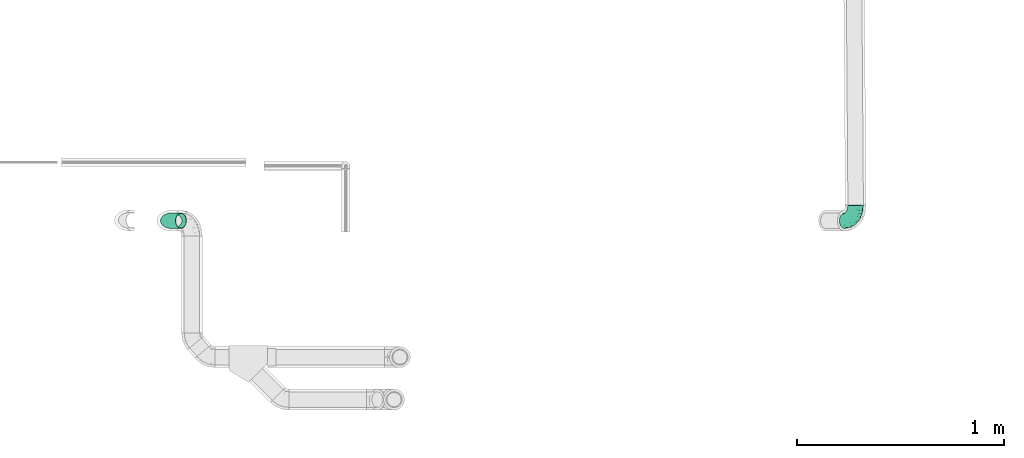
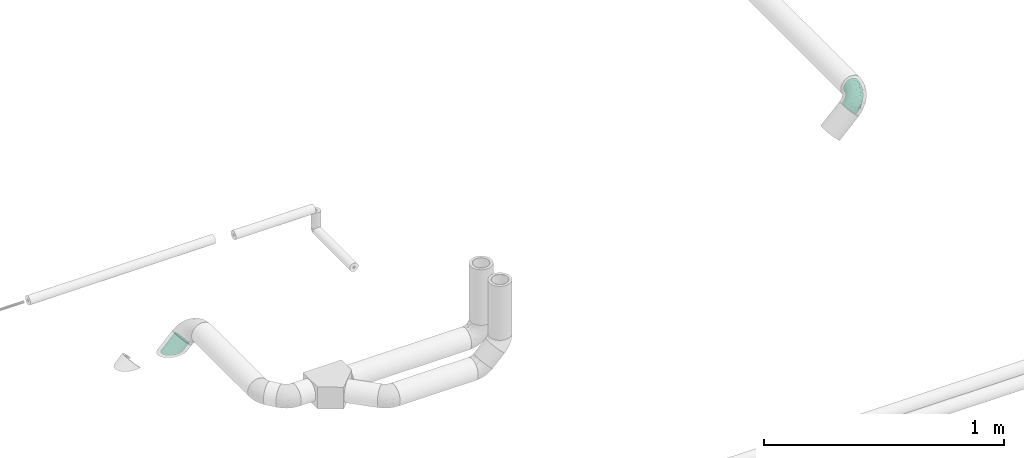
# One storey, part 144 of 156: 1 flow fitting, 1 flow segment.
"""IFC2X3 building model written with IfcOpenShell, lengths in millimetres."""

from ifc_helpers import new_model, entity, si_unit, converted_unit, derived_unit, direction, frame, origin_with_axes, place, context, subcontext, project, spatial, open_shell, faceted_brep, surface_model, source, transform, mapped, type_object, element, save


model = new_model("IFC2X3")

# Units and contexts
model_context = context("Model", 3, precision=0.01, world=frame((0.0, 4.29681676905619e-09, 0.0)), true_north=direction((4.01073788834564e-13, 1.0)))
plan_context = context("Plan", 3, precision=0.01, world=frame((0.0, 4.29681676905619e-09, 0.0)), true_north=direction((4.01073788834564e-13, 1.0)))
body_context = subcontext(model_context, "Body", "Model", "MODEL_VIEW")
ifc_project = project(units=[converted_unit("PLANEANGLEUNIT", "DEGREE", entity("IfcPositiveLengthMeasure", 0.0174532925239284), si_unit("PLANEANGLEUNIT", "RADIAN"), dimensions=[0, 0, 0, 0, 0, 0, 0]), si_unit("AREAUNIT", "SQUARE_METRE"), si_unit("LENGTHUNIT", "METRE", prefix="MILLI"), si_unit("MASSUNIT", "GRAM", prefix="KILO"), si_unit("POWERUNIT", "WATT"), si_unit("PRESSUREUNIT", "PASCAL", prefix="KILO"), si_unit("FORCEUNIT", "NEWTON", prefix="KILO"), si_unit("ELECTRICVOLTAGEUNIT", "VOLT"), si_unit("ELECTRICCURRENTUNIT", "AMPERE"), si_unit("THERMODYNAMICTEMPERATUREUNIT", "DEGREE_CELSIUS"), si_unit("TIMEUNIT", "SECOND"), si_unit("VOLUMEUNIT", "CUBIC_METRE"), derived_unit("LINEARVELOCITYUNIT", [(si_unit("LENGTHUNIT", "METRE"), 1), (si_unit("TIMEUNIT", "SECOND"), -1)]), derived_unit("VOLUMETRICFLOWRATEUNIT", [(si_unit("VOLUMEUNIT", "CUBIC_METRE"), 1), (si_unit("TIMEUNIT", "SECOND"), -1)]), derived_unit("THERMALTRANSMITTANCEUNIT", [(si_unit("POWERUNIT", "WATT"), 1), (si_unit("THERMODYNAMICTEMPERATUREUNIT", "KELVIN"), -1), (si_unit("AREAUNIT", "SQUARE_METRE"), -1)]), derived_unit("SOUNDPRESSUREUNIT", [(si_unit("PRESSUREUNIT", "PASCAL"), 1)])], contexts=[model_context, plan_context])

# Site, building, storey
site_placement = place(None, frame((0.0, -4.29681676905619e-09, 0.0), z_axis=(0.0, 0.0, 1.0), x_axis=(1.0, 0.0, 0.0)))
site = spatial("IfcSite", under=ifc_project, at=site_placement, CompositionType="ELEMENT")
building_placement = place(site_placement, frame((0.0, 4.29681676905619e-09, 0.0), z_axis=(0.0, 0.0, 1.0), x_axis=(1.0, 0.0, 0.0)))
building = spatial("IfcBuilding", under=site, at=building_placement, Name="mc-building", CompositionType="ELEMENT")
storey_placement = place(building_placement, frame((0.0, 0.0, 205200.0), z_axis=(0.0, 0.0, 1.0), x_axis=(1.0, 0.0, 0.0)))
storey = spatial("IfcBuildingStorey", under=building, at=storey_placement, Name="Nivå D + 1,2 m", CompositionType="ELEMENT", Elevation=205200.0)

# Flow fitting
pipe_fitting_type = type_object("IfcPipeFittingType", Name="magi_pipe_elbow_short_001", PredefinedType="BEND")
shared_shape = source(origin_with_axes(), body_context, "Body", "SurfaceModel", [
    surface_model("IfcShellBasedSurfaceModel", [(-74.75503, 18.75, -32.47595), (-74.75503, 9.70571, -36.22222), (-74.75503, 0.0, -37.5), (-74.75503, 26.5165, -26.5165), (-74.75503, 36.22222, -9.70571), (-74.75503, 32.47595, -18.75), (-74.75503, -26.5165, -26.5165), (-74.75503, -32.47595, -18.75), (-74.75503, -18.75, -32.47595), (-74.75503, -9.70571, -36.22222), (-74.75503, -36.22222, -9.70571), (-74.75503, -37.5, 0.0), (-74.75503, -36.22222, 9.70571), (-74.75503, 36.22222, 9.70571), (-74.75503, 37.5, 0.0), (-74.75503, 26.5165, 26.5165), (-74.75503, 32.47595, 18.75), (-74.75503, 9.70571, 36.22222), (-74.75503, 18.75, 32.47595), (-74.75503, 0.0, 37.5), (-74.75503, -32.47595, 18.75), (-74.75503, -26.5165, 26.5165), (-74.75503, -18.75, 32.47595), (-74.75503, -9.70571, 36.22222), (-26.2718, 74.84138, -26.5165), (0.24457, 74.75463, -37.5), (-9.4611, 74.78638, -36.22222), (-18.50533, 74.81597, -32.47595), (36.46659, 74.63613, -9.70571), (-32.23121, 74.86088, -18.75), (26.76093, 74.66788, -26.5165), (36.46659, 74.63613, 9.70571), (18.99447, 74.69329, -32.47595), (9.95023, 74.72288, -36.22222), (32.72035, 74.64838, -18.75), (37.74437, 74.63195, 0.0), (-35.97746, 74.87314, -9.70571), (-37.25523, 74.87732, 0.0), (-35.97746, 74.87314, 9.70571), (-26.2718, 74.84138, 26.5165), (-32.23121, 74.86088, 18.75), (-18.50533, 74.81597, 32.47595), (-9.4611, 74.78638, 36.22222), (26.76093, 74.66788, 26.5165), (32.72035, 74.64838, 18.75), (18.99447, 74.69329, 32.47595), (0.24457, 74.75463, 37.5), (9.95023, 74.72288, 36.22222), (-50.42254, -32.88814, 11.79115), (-54.75902, -29.12955, 21.05373), (-40.06064, -32.01658, 0.0), (-56.31067, -34.58488, 0.0), (-9.46276, -13.04664, 14.42571), (-2.5303, -10.16554, 7.85878), (2.31043, -2.318, 15.45807), (-57.08506, -4.96839, 36.86023), (-52.29831, 5.74733, 37.43557), (12.9489, 9.01156, 14.08002), (22.97553, 30.15064, 18.65586), (8.87105, 13.39165, 23.93306), (-37.16482, -0.35532, 36.35124), (-54.61015, -14.14482, 33.72731), (-28.87956, -8.84098, 31.35399), (-47.84214, -21.41545, 27.86004), (-33.42472, -28.77363, 7.69876), (-24.40449, -24.05873, 0.0), (-6.58532, 6.6069, 30.67927), (-13.4206, -8.82719, 23.93306), (-36.45869, 59.74015, 16.29345), (-13.78768, 64.51976, 35.12309), (-4.95809, 55.88636, 37.40743), (-57.57076, 14.70977, 35.42242), (-9.66185, 24.95339, 36.82012), (-18.46604, 6.86823, 35.03315), (-3.66507, 20.1595, 34.46255), (-64.67653, 22.70802, 30.55123), (-12.90945, 36.76647, 37.42999), (-27.6276, 27.71813, 36.58295), (-22.2159, 16.33007, 37.31142), (-59.14423, 39.90093, 8.22929), (-59.63034, 36.65076, 16.29215), (-46.36443, 46.51636, 14.01207), (-58.39768, 31.25797, 24.60453), (21.57185, 47.77182, 27.86004), (-38.6698, 49.65676, 21.24075), (-31.13467, 58.25564, 24.63137), (14.3234, 54.56358, 33.72731), (29.30854, 54.66342, 21.05373), (33.05293, 50.31467, 11.79115), (-8.74835, -16.10087, 0.0), (-18.06718, -20.69273, 9.70186), (5.15513, 57.0685, 36.86023), (-41.02102, 16.03421, 36.82816), (-36.63875, 9.17816, 37.48497), (24.13844, 24.32565, 0.0), (28.88283, 33.33041, 7.69876), (20.75173, 17.99938, 9.70186), (34.76892, 56.19722, 0.0), (-39.71975, 25.38814, 34.68105), (-30.22565, -22.87677, 18.65586), (-27.02368, 48.33516, 31.51384), (-22.7057, 62.72397, 30.70877), (-39.27194, 60.3899, 8.04548), (-46.8306, 49.10431, 6.5901), (17.391, 29.93433, 25.41303), (8.93541, 28.85048, 31.35399), (-42.32005, 56.17921, 0.0), (-34.57816, 39.49641, 30.8055), (-51.46432, 25.43731, 31.57037), (-29.84223, -16.41797, 26.17381), (-21.25951, 38.72858, 36.03844), (-29.73488, 36.20831, 34.11367), (-16.04191, 50.68016, 35.70942), (-39.38174, 41.78898, 26.55349), (-47.95246, 40.28171, 20.89443), (0.47691, 37.16346, 36.35124), (-2.5099, 2.51813, 25.66918), (10.33866, 2.57222, 7.49194), (32.14747, 39.95568, 0.0), (16.1294, 8.69563, 0.0), (-56.04046, 42.50362, 0.0), (3.69053, -3.70262, 0.0), (-58.15347, 31.32509, -24.63137), (-29.99106, -17.29297, -25.41303), (-28.87956, -8.84098, -31.35399), (-13.4206, -8.82719, -23.93306), (-55.86984, 5.1409, -37.40743), (0.47691, 37.16346, -36.35124), (14.3234, 54.56358, -33.72731), (8.93541, 28.85048, -31.35399), (-64.47431, 13.99869, -35.12309), (-22.4963, 64.75048, -30.55123), (-31.06675, 58.49963, -24.60453), (-60.2611, 39.4693, -8.04548), (8.87105, 13.39165, -23.93306), (16.51551, 29.78836, -26.17381), (-46.36443, 46.51636, -14.01207), (-59.62056, 36.65394, -16.29345), (28.88283, 33.33041, -7.69876), (22.97553, 30.15064, -18.65585), (33.05293, 50.31467, -11.79115), (-36.11083, 29.85317, -34.11367), (-38.65882, 21.3861, -36.03844), (-48.24649, 27.18167, -31.51384), (-6.58532, 6.6069, -30.67926), (-24.92165, 9.74343, -36.82012), (-6.80778, 18.48841, -35.03315), (-20.1474, 3.731, -34.46255), (-62.64935, 22.91078, -30.70877), (-50.42254, -32.88814, -11.79115), (-41.65992, 39.51825, -26.55349), (-54.75902, -29.12955, -21.05373), (-33.42472, -28.77363, -7.69876), (-30.22565, -22.87677, -18.65585), (-18.06718, -20.69273, -9.70186), (-49.52998, 38.83205, -21.24075), (-54.61015, -14.14482, -33.72731), (-57.08506, -4.96839, -36.86023), (-50.62741, 16.20763, -35.70942), (-36.72404, 13.02966, -37.42999), (-14.52135, 57.61858, -35.42242), (-5.57621, 52.31683, -37.43557), (-48.95084, 46.991, -6.5901), (-25.25806, 39.8026, -34.68105), (-15.89992, 41.07326, -36.82816), (-39.70721, 59.27445, -8.22929), (-36.45548, 59.74992, -16.29215), (5.15513, 57.0685, -36.86023), (-2.5303, -10.16554, -7.85878), (29.30854, 54.66342, -21.05373), (-47.84214, -21.41545, -27.86004), (-27.6276, 27.71813, -36.58295), (-16.2573, 22.2692, -37.31142), (21.57185, 47.77182, -27.86004), (20.75173, 17.99938, -9.70186), (-39.38308, 34.70718, -30.8055), (-25.2688, 51.54726, -31.57037), (-9.05824, 36.66858, -37.48497), (-40.12462, 48.08398, -20.89443), (-37.16482, -0.35532, -36.35124), (-9.46276, -13.04664, -14.42571), (-0.40833, 0.40967, -22.07441), (2.31043, -2.318, -15.45808), (13.2791, 10.09127, -14.98424), (10.37808, 2.8742, -8.26184)], [open_shell([[[0, 1, 2]], [[3, 0, 2]], [[4, 5, 3]], [[6, 3, 2]], [[4, 3, 7]], [[8, 6, 9]], [[6, 2, 9]], [[10, 11, 7]], [[3, 6, 7]], [[7, 11, 12]], [[12, 4, 7]], [[13, 14, 15]], [[16, 13, 15]], [[17, 18, 15]], [[14, 17, 15]], [[19, 17, 14]], [[20, 21, 12]], [[22, 12, 21]], [[23, 19, 22]], [[12, 22, 19]], [[19, 14, 12]], [[4, 12, 14]], [[24, 25, 26]], [[24, 26, 27]], [[28, 24, 29]], [[24, 30, 25]], [[29, 31, 28]], [[25, 32, 33]], [[25, 30, 32]], [[30, 28, 34]], [[30, 24, 28]], [[31, 35, 28]], [[29, 36, 37]], [[29, 38, 39]], [[39, 38, 40]], [[39, 41, 42]], [[29, 39, 31]], [[31, 39, 42]], [[31, 43, 44]], [[43, 31, 45]], [[45, 46, 47]], [[45, 31, 42]], [[42, 46, 45]], [[38, 29, 37]], [[48, 49, 20]], [[50, 48, 51]], [[52, 53, 54]], [[12, 48, 20]], [[12, 51, 48]], [[19, 55, 56]], [[20, 49, 21]], [[57, 58, 59]], [[60, 61, 62]], [[63, 22, 21]], [[63, 61, 22]], [[64, 50, 65]], [[66, 62, 67]], [[68, 40, 38]], [[42, 69, 70]], [[17, 71, 18]], [[72, 73, 74]], [[18, 75, 15]], [[23, 55, 19]], [[76, 77, 78]], [[79, 80, 81]], [[16, 82, 80]], [[83, 43, 45]], [[14, 13, 79]], [[13, 16, 80]], [[68, 84, 85]], [[82, 16, 15]], [[19, 56, 17]], [[45, 86, 83]], [[15, 75, 82]], [[87, 58, 88]], [[85, 40, 68]], [[89, 90, 65]], [[46, 91, 47]], [[65, 90, 64]], [[46, 42, 70]], [[92, 93, 78]], [[88, 31, 44]], [[44, 43, 87]], [[87, 88, 44]], [[94, 95, 96]], [[88, 97, 31]], [[98, 71, 92]], [[49, 99, 63]], [[85, 100, 101]], [[81, 102, 103]], [[104, 105, 59]], [[106, 102, 37]], [[98, 107, 108]], [[102, 81, 68]], [[86, 45, 47]], [[85, 39, 40]], [[67, 62, 109]], [[110, 100, 111]], [[22, 61, 23]], [[101, 41, 39]], [[69, 42, 41]], [[112, 76, 70]], [[83, 86, 105]], [[96, 95, 58]], [[100, 85, 113]], [[71, 17, 56]], [[108, 113, 82]], [[80, 114, 81]], [[112, 110, 76]], [[91, 70, 115]], [[62, 61, 63]], [[55, 61, 60]], [[109, 99, 67]], [[73, 62, 66]], [[91, 86, 47]], [[105, 86, 115]], [[74, 105, 115]], [[105, 66, 59]], [[58, 104, 59]], [[48, 64, 99]], [[99, 49, 48]], [[63, 21, 49]], [[43, 83, 87]], [[58, 87, 83]], [[92, 71, 56]], [[75, 71, 108]], [[102, 68, 38]], [[114, 84, 81]], [[98, 111, 107]], [[112, 69, 101]], [[114, 82, 113]], [[81, 103, 79]], [[92, 78, 77]], [[115, 70, 76]], [[73, 78, 60]], [[76, 78, 72]], [[52, 99, 90]], [[116, 54, 59]], [[116, 59, 66]], [[57, 54, 117]], [[70, 91, 46]], [[86, 91, 115]], [[61, 55, 23]], [[56, 55, 60]], [[12, 11, 51]], [[97, 88, 118]], [[97, 35, 31]], [[53, 90, 89]], [[90, 53, 52]], [[94, 96, 119]], [[88, 95, 118]], [[117, 54, 53]], [[92, 56, 93]], [[98, 92, 77]], [[111, 98, 77]], [[71, 98, 108]], [[110, 111, 77]], [[107, 111, 100]], [[37, 102, 38]], [[102, 106, 103]], [[106, 120, 103]], [[103, 120, 79]], [[14, 79, 120]], [[13, 80, 79]], [[56, 60, 93]], [[60, 78, 93]], [[117, 121, 119]], [[121, 117, 53]], [[53, 89, 121]], [[119, 96, 117]], [[117, 96, 57]], [[76, 110, 77]], [[100, 110, 112]], [[82, 114, 80]], [[84, 114, 113]], [[85, 84, 113]], [[81, 84, 68]], [[54, 67, 52]], [[99, 52, 67]], [[85, 101, 39]], [[112, 101, 100]], [[100, 113, 107]], [[108, 107, 113]], [[62, 73, 60]], [[74, 73, 66]], [[105, 74, 66]], [[72, 74, 115]], [[76, 72, 115]], [[73, 72, 78]], [[99, 64, 90]], [[50, 64, 48]], [[118, 95, 94]], [[58, 95, 88]], [[58, 57, 96]], [[59, 54, 57]], [[71, 75, 18]], [[82, 75, 108]], [[101, 69, 41]], [[70, 69, 112]], [[62, 63, 109]], [[99, 109, 63]], [[58, 83, 104]], [[105, 104, 83]], [[66, 67, 116]], [[54, 116, 67]], [[5, 122, 3]], [[123, 124, 125]], [[2, 1, 126]], [[127, 128, 129]], [[1, 0, 130]], [[24, 131, 132]], [[120, 133, 14]], [[134, 129, 135]], [[133, 136, 137]], [[138, 139, 140]], [[141, 142, 143]], [[129, 134, 144]], [[145, 146, 147]], [[148, 0, 3]], [[7, 149, 10]], [[32, 128, 33]], [[149, 51, 10]], [[143, 122, 150]], [[149, 7, 151]], [[122, 5, 137]], [[152, 153, 154]], [[137, 155, 122]], [[156, 8, 9]], [[28, 35, 97]], [[157, 9, 2]], [[153, 149, 151]], [[158, 159, 126]], [[160, 26, 161]], [[162, 136, 133]], [[163, 160, 164]], [[37, 36, 165]], [[122, 143, 148]], [[166, 36, 29]], [[25, 167, 161]], [[89, 154, 168]], [[24, 27, 131]], [[160, 27, 26]], [[140, 169, 34]], [[25, 33, 167]], [[5, 4, 137]], [[170, 6, 8]], [[24, 132, 29]], [[159, 171, 172]], [[32, 173, 128]], [[156, 170, 8]], [[165, 166, 136]], [[25, 161, 26]], [[118, 94, 138]], [[34, 169, 30]], [[173, 32, 30]], [[140, 28, 97]], [[170, 156, 124]], [[140, 97, 118]], [[65, 152, 154]], [[119, 174, 94]], [[34, 28, 140]], [[163, 175, 176]], [[1, 130, 126]], [[169, 139, 173]], [[132, 166, 29]], [[164, 177, 172]], [[7, 6, 151]], [[176, 150, 132]], [[166, 178, 136]], [[158, 142, 159]], [[157, 126, 179]], [[157, 156, 9]], [[124, 156, 179]], [[147, 124, 179]], [[124, 144, 125]], [[129, 128, 173]], [[167, 128, 127]], [[135, 139, 134]], [[146, 129, 144]], [[180, 153, 125]], [[153, 123, 125]], [[6, 170, 151]], [[153, 151, 170]], [[139, 169, 140]], [[173, 30, 169]], [[164, 160, 161]], [[131, 160, 176]], [[133, 137, 4]], [[178, 155, 136]], [[163, 141, 175]], [[158, 130, 148]], [[178, 132, 150]], [[136, 162, 165]], [[164, 172, 171]], [[179, 126, 159]], [[146, 172, 127]], [[159, 172, 145]], [[181, 144, 134]], [[180, 182, 168]], [[183, 139, 174]], [[181, 182, 180]], [[126, 157, 2]], [[156, 157, 179]], [[128, 167, 33]], [[161, 167, 127]], [[51, 149, 50]], [[51, 11, 10]], [[65, 154, 89]], [[149, 152, 50]], [[154, 180, 168]], [[94, 174, 138]], [[182, 184, 168]], [[174, 184, 183]], [[164, 161, 177]], [[163, 164, 171]], [[141, 163, 171]], [[160, 163, 176]], [[142, 141, 171]], [[175, 141, 143]], [[14, 133, 4]], [[133, 120, 162]], [[120, 106, 162]], [[162, 106, 165]], [[37, 165, 106]], [[36, 166, 165]], [[161, 127, 177]], [[127, 172, 177]], [[182, 183, 184]], [[184, 121, 168]], [[174, 119, 184]], [[181, 183, 182]], [[121, 184, 119]], [[121, 89, 168]], [[139, 183, 134]], [[159, 142, 171]], [[143, 142, 158]], [[132, 178, 166]], [[155, 178, 150]], [[122, 155, 150]], [[136, 155, 137]], [[153, 180, 154]], [[181, 180, 125]], [[122, 148, 3]], [[158, 148, 143]], [[143, 150, 175]], [[176, 175, 150]], [[129, 146, 127]], [[147, 146, 144]], [[124, 147, 144]], [[145, 147, 179]], [[159, 145, 179]], [[146, 145, 172]], [[50, 152, 65]], [[153, 152, 149]], [[139, 138, 174]], [[118, 138, 140]], [[160, 131, 27]], [[132, 131, 176]], [[148, 130, 0]], [[126, 130, 158]], [[153, 170, 123]], [[124, 123, 170]], [[129, 173, 135]], [[139, 135, 173]], [[144, 181, 125]], [[183, 181, 134]]])]),
])
flow_fitting_placement = place(storey_placement, frame((341614.64679, 461168.61783, 4139.72772), z_axis=(-0.70617988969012, -0.0135969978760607, 0.707901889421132), x_axis=(0.707967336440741, -8.08001194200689e-09, 0.706245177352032)))
element("IfcFlowFitting", 1, at=flow_fitting_placement, inside=storey, type_object=pipe_fitting_type, Name="magi_pipe_elbow_short_001", context=body_context, shape_type="MappedRepresentation", body=[
    mapped(shared_shape, transform((0.0, 0.0, 0.0), scale=1.0)),
])

# Flow segment
pipe_segment_type = type_object("IfcPipeSegmentType", Name="MA", PredefinedType="RIGIDSEGMENT")
flow_segment_placement = place(storey_placement, frame((338273.03847, 461168.55164, 3964.54381), z_axis=(-0.707106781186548, 0.0, 0.707106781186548), x_axis=(0.707106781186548, 0.0, 0.707106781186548)))
element("IfcFlowSegment", 2, at=flow_segment_placement, inside=storey, type_object=pipe_segment_type, Name="MA", context=body_context, shape_type="Brep", body=[
    faceted_brep([(56.3071350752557, 34.9606752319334, -6.16451030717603), (50.1426247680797, 35.5, 0.0), (115.2, 35.5, 0.0), (115.2, 34.9606752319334, -6.16451030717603), (62.284339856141, 33.3590880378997, -12.1417150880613), (115.2, 33.3590880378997, -12.1417150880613), (67.8926247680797, 30.7439018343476, -17.75), (115.2, 30.7439018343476, -17.75), (72.9615849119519, 27.1945777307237, -22.8189601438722), (115.2, 27.1945777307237, -22.8189601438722), (77.3372024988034, 22.8189601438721, -27.1945777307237), (115.2, 22.8189601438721, -27.1945777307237), (80.8865266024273, 17.75, -30.7439018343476), (115.2, 17.75, -30.7439018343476), (83.5017128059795, 12.1417150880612, -33.3590880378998), (115.2, 12.1417150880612, -33.3590880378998), (85.1033000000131, 6.16451030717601, -34.9606752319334), (115.2, 6.16451030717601, -34.9606752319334), (85.6426247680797, -6.52124420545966e-15, -35.5), (115.2, -6.52124420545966e-15, -35.5), (85.1033000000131, -6.16451030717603, -34.9606752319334), (115.2, -6.16451030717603, -34.9606752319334), (83.5017128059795, -12.1417150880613, -33.3590880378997), (115.2, -12.1417150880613, -33.3590880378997), (80.8865266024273, -17.75, -30.7439018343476), (115.2, -17.75, -30.7439018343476), (77.3372024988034, -22.8189601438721, -27.1945777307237), (115.2, -22.8189601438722, -27.1945777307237), (72.9615849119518, -27.1945777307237, -22.8189601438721), (115.2, -27.1945777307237, -22.8189601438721), (67.8926247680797, -30.7439018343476, -17.75), (115.2, -30.7439018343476, -17.75), (62.284339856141, -33.3590880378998, -12.1417150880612), (115.2, -33.3590880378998, -12.1417150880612), (56.3071350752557, -34.9606752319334, -6.16451030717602), (115.2, -34.9606752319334, -6.16451030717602), (50.1426247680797, -35.5, 4.3474961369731e-15), (115.2, -35.5, 4.3474961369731e-15), (43.9781144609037, -34.9606752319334, 6.16451030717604), (115.2, -34.9606752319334, 6.16451030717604), (38.0009096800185, -33.3590880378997, 12.1417150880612), (115.2, -33.3590880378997, 12.1417150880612), (32.3926247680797, -30.7439018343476, 17.75), (115.2, -30.7439018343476, 17.75), (27.3236646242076, -27.1945777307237, 22.8189601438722), (115.2, -27.1945777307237, 22.8189601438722), (22.948047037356, -22.8189601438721, 27.1945777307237), (115.2, -22.8189601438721, 27.1945777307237), (19.3987229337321, -17.75, 30.7439018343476), (115.2, -17.75, 30.7439018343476), (16.78353673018, -12.1417150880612, 33.3590880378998), (115.2, -12.1417150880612, 33.3590880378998), (15.1819495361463, -6.16451030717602, 34.9606752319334), (115.2, -6.16451030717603, 34.9606752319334), (14.6426247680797, 2.17374806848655e-15, 35.5), (115.2, 2.17374806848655e-15, 35.5), (15.1819495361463, 6.16451030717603, 34.9606752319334), (115.2, 6.16451030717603, 34.9606752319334), (16.78353673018, 12.1417150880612, 33.3590880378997), (115.2, 12.1417150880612, 33.3590880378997), (19.3987229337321, 17.75, 30.7439018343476), (115.2, 17.75, 30.7439018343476), (22.948047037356, 22.8189601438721, 27.1945777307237), (115.2, 22.8189601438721, 27.1945777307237), (27.3236646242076, 27.1945777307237, 22.8189601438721), (115.2, 27.1945777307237, 22.8189601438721), (32.3926247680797, 30.7439018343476, 17.75), (115.2, 30.7439018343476, 17.75), (38.0009096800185, 33.3590880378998, 12.1417150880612), (115.2, 33.3590880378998, 12.1417150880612), (43.9781144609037, 34.9606752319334, 6.16451030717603), (115.2, 34.9606752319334, 6.16451030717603), (50.1426247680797, 37.5, 0.0), (56.6544314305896, 36.9302907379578, -6.51180666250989), (115.2, 36.9302907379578, -6.51180666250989), (115.2, 37.5, 0.0), (43.6308181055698, 36.9302907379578, 6.51180666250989), (115.2, 36.9302907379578, 6.51180666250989), (37.3168693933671, 35.2384732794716, 12.8257553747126), (115.2, 35.2384732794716, 12.8257553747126), (31.3926247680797, 32.4759526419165, 18.75), (115.2, 32.4759526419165, 18.75), (26.0380894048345, 28.7266666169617, 24.1045353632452), (115.2, 28.7266666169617, 24.1045353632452), (21.4159581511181, 24.1045353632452, 28.7266666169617), (115.2, 24.1045353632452, 28.7266666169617), (17.6666721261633, 18.75, 32.4759526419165), (115.2, 18.75, 32.4759526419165), (14.9041514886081, 12.8257553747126, 35.2384732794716), (115.2, 12.8257553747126, 35.2384732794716), (13.2123340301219, 6.51180666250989, 36.9302907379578), (115.2, 6.51180666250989, 36.9302907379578), (12.6426247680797, 2.29621274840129e-15, 37.5), (115.2, 2.29621274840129e-15, 37.5), (13.2123340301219, -6.51180666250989, 36.9302907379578), (115.2, -6.51180666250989, 36.9302907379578), (14.9041514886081, -12.8257553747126, 35.2384732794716), (115.2, -12.8257553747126, 35.2384732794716), (17.6666721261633, -18.75, 32.4759526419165), (115.2, -18.75, 32.4759526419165), (21.415958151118, -24.1045353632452, 28.7266666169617), (115.2, -24.1045353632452, 28.7266666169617), (26.0380894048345, -28.7266666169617, 24.1045353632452), (115.2, -28.7266666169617, 24.1045353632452), (31.3926247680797, -32.4759526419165, 18.75), (115.2, -32.4759526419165, 18.75), (37.3168693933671, -35.2384732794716, 12.8257553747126), (115.2, -35.2384732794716, 12.8257553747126), (43.6308181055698, -36.9302907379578, 6.5118066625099), (115.2, -36.9302907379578, 6.5118066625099), (50.1426247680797, -37.5, 4.59242549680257e-15), (115.2, -37.5, 4.59242549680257e-15), (56.6544314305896, -36.9302907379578, -6.51180666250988), (115.2, -36.9302907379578, -6.51180666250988), (62.9683801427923, -35.2384732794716, -12.8257553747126), (115.2, -35.2384732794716, -12.8257553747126), (68.8926247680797, -32.4759526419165, -18.75), (115.2, -32.4759526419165, -18.75), (74.2471601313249, -28.7266666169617, -24.1045353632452), (115.2, -28.7266666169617, -24.1045353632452), (78.8692913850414, -24.1045353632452, -28.7266666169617), (115.2, -24.1045353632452, -28.7266666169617), (82.6185774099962, -18.75, -32.4759526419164), (115.2, -18.75, -32.4759526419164), (85.3810980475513, -12.8257553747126, -35.2384732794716), (115.2, -12.8257553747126, -35.2384732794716), (87.0729155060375, -6.51180666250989, -36.9302907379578), (115.2, -6.51180666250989, -36.9302907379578), (87.6426247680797, -6.88863824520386e-15, -37.5), (115.2, -6.88863824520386e-15, -37.5), (87.0729155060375, 6.51180666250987, -36.9302907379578), (115.2, 6.51180666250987, -36.9302907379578), (85.3810980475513, 12.8257553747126, -35.2384732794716), (115.2, 12.8257553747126, -35.2384732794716), (82.6185774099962, 18.75, -32.4759526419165), (115.2, 18.75, -32.4759526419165), (78.8692913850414, 24.1045353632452, -28.7266666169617), (115.2, 24.1045353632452, -28.7266666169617), (74.2471601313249, 28.7266666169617, -24.1045353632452), (115.2, 28.7266666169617, -24.1045353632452), (68.8926247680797, 32.4759526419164, -18.75), (115.2, 32.4759526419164, -18.75), (62.9683801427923, 35.2384732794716, -12.8257553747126), (115.2, 35.2384732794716, -12.8257553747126)], [[[0, 1, 2, 3]], [[4, 0, 3, 5]], [[6, 4, 5, 7]], [[8, 6, 7, 9]], [[10, 8, 9, 11]], [[12, 10, 11, 13]], [[14, 12, 13, 15]], [[16, 14, 15, 17]], [[18, 16, 17, 19]], [[20, 18, 19, 21]], [[22, 20, 21, 23]], [[24, 22, 23, 25]], [[26, 24, 25, 27]], [[28, 26, 27, 29]], [[30, 28, 29, 31]], [[32, 30, 31, 33]], [[34, 32, 33, 35]], [[36, 34, 35, 37]], [[38, 36, 37, 39]], [[40, 38, 39, 41]], [[42, 40, 41, 43]], [[44, 42, 43, 45]], [[46, 44, 45, 47]], [[48, 46, 47, 49]], [[50, 48, 49, 51]], [[52, 50, 51, 53]], [[54, 52, 53, 55]], [[56, 54, 55, 57]], [[58, 56, 57, 59]], [[60, 58, 59, 61]], [[62, 60, 61, 63]], [[64, 62, 63, 65]], [[66, 64, 65, 67]], [[68, 66, 67, 69]], [[70, 68, 69, 71]], [[1, 70, 71, 2]], [[72, 73, 74, 75]], [[76, 72, 75, 77]], [[78, 76, 77, 79]], [[80, 78, 79, 81]], [[82, 80, 81, 83]], [[84, 82, 83, 85]], [[86, 84, 85, 87]], [[88, 86, 87, 89]], [[90, 88, 89, 91]], [[92, 90, 91, 93]], [[94, 92, 93, 95]], [[96, 94, 95, 97]], [[98, 96, 97, 99]], [[100, 98, 99, 101]], [[102, 100, 101, 103]], [[104, 102, 103, 105]], [[106, 104, 105, 107]], [[108, 106, 107, 109]], [[110, 108, 109, 111]], [[112, 110, 111, 113]], [[114, 112, 113, 115]], [[116, 114, 115, 117]], [[118, 116, 117, 119]], [[120, 118, 119, 121]], [[122, 120, 121, 123]], [[124, 122, 123, 125]], [[126, 124, 125, 127]], [[128, 126, 127, 129]], [[130, 128, 129, 131]], [[132, 130, 131, 133]], [[134, 132, 133, 135]], [[136, 134, 135, 137]], [[138, 136, 137, 139]], [[140, 138, 139, 141]], [[142, 140, 141, 143]], [[73, 142, 143, 74]], [[75, 74, 143, 141, 139, 137, 135, 133, 131, 129, 127, 125, 123, 121, 119, 117, 115, 113, 111, 109, 107, 105, 103, 101, 99, 97, 95, 93, 91, 89, 87, 85, 83, 81, 79, 77], [2, 71, 69, 67, 65, 63, 61, 59, 57, 55, 53, 51, 49, 47, 45, 43, 41, 39, 37, 35, 33, 31, 29, 27, 25, 23, 21, 19, 17, 15, 13, 11, 9, 7, 5, 3]], [[76, 78, 80, 82, 84, 86, 88, 90, 92, 94, 96, 98, 100, 102, 104, 106, 108, 110, 112, 114, 116, 118, 120, 122, 124, 126, 128, 130, 132, 134, 136, 138, 140, 142, 73, 72], [4, 6, 8, 10, 12, 14, 16, 18, 20, 22, 24, 26, 28, 30, 32, 34, 36, 38, 40, 42, 44, 46, 48, 50, 52, 54, 56, 58, 60, 62, 64, 66, 68, 70, 1, 0]]], orient=[[False], [False], [False], [False], [False], [False], [False], [False], [False], [False], [False], [False], [False], [False], [False], [False], [False], [False], [False], [False], [False], [False], [False], [False], [False], [False], [False], [False], [False], [False], [False], [False], [False], [False], [False], [False], [False], [False], [False], [False], [False], [False], [False], [False], [False], [False], [False], [False], [False], [False], [False], [False], [False], [False], [False], [False], [False], [False], [False], [False], [False], [False], [False], [False], [False], [False], [False], [False], [False], [False], [False], [False], [False, False], [False, False]]),
])

save(model, "model.ifc")
